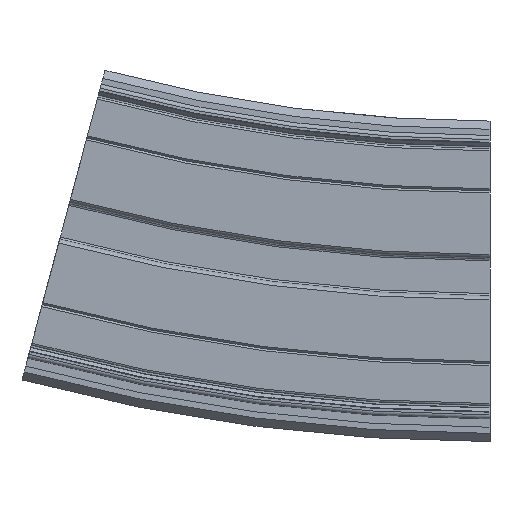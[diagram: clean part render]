
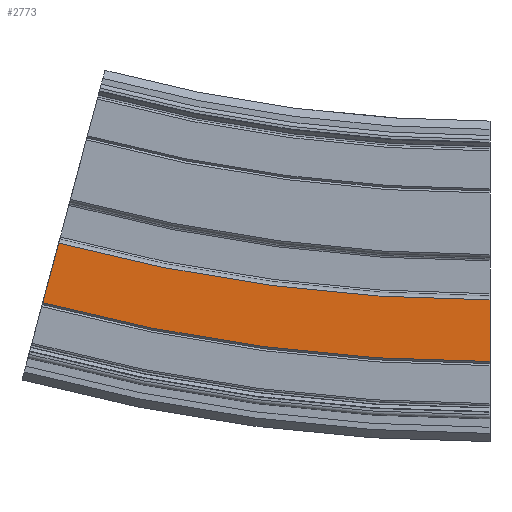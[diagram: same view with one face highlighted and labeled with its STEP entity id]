
A CAD part, left-side view. The second image highlights one B-rep face of the part: STEP entity #2773.
In plain terms, the highlighted planar face has unit normal (-1, 0, 0).
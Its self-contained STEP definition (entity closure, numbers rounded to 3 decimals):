
#267=CIRCLE('',#3020,405.5);
#268=CIRCLE('',#3022,420.5);
#442=FACE_OUTER_BOUND('',#596,.T.);
#596=EDGE_LOOP('',(#2171,#2172,#2173,#2174));
#773=LINE('',#9166,#979);
#774=LINE('',#9168,#980);
#979=VECTOR('',#3622,10.);
#980=VECTOR('',#3623,10.);
#1235=VERTEX_POINT('',#9159);
#1236=VERTEX_POINT('',#9161);
#1237=VERTEX_POINT('',#9165);
#1238=VERTEX_POINT('',#9167);
#1602=EDGE_CURVE('',#1235,#1236,#267,.T.);
#1603=EDGE_CURVE('',#1237,#1235,#773,.T.);
#1604=EDGE_CURVE('',#1238,#1236,#774,.T.);
#1605=EDGE_CURVE('',#1237,#1238,#268,.T.);
#2171=ORIENTED_EDGE('',*,*,#1603,.T.);
#2172=ORIENTED_EDGE('',*,*,#1602,.T.);
#2173=ORIENTED_EDGE('',*,*,#1604,.F.);
#2174=ORIENTED_EDGE('',*,*,#1605,.F.);
#2663=PLANE('',#3021);
#2773=ADVANCED_FACE('',(#442),#2663,.T.);
#3020=AXIS2_PLACEMENT_3D('',#9163,#3618,#3619);
#3021=AXIS2_PLACEMENT_3D('',#9164,#3620,#3621);
#3022=AXIS2_PLACEMENT_3D('',#9169,#3624,#3625);
#3618=DIRECTION('center_axis',(1.,0.,0.));
#3619=DIRECTION('ref_axis',(0.,0.,-1.));
#3620=DIRECTION('center_axis',(-1.,0.,0.));
#3621=DIRECTION('ref_axis',(0.,0.,1.));
#3622=DIRECTION('',(0.,0.,1.));
#3623=DIRECTION('',(0.,-0.259,0.966));
#3624=DIRECTION('center_axis',(1.,0.,0.));
#3625=DIRECTION('ref_axis',(0.,0.,-1.));
#9159=CARTESIAN_POINT('',(-32.,0.,-5.5));
#9161=CARTESIAN_POINT('',(-32.,104.951,8.317));
#9163=CARTESIAN_POINT('Origin',(-32.,0.,400.));
#9164=CARTESIAN_POINT('Origin',(-32.,0.,-20.5));
#9165=CARTESIAN_POINT('',(-32.,0.,-20.5));
#9166=CARTESIAN_POINT('',(-32.,0.,-20.5));
#9167=CARTESIAN_POINT('',(-32.,108.833,-6.172));
#9168=CARTESIAN_POINT('',(-32.,108.833,-6.172));
#9169=CARTESIAN_POINT('Origin',(-32.,0.,400.));
